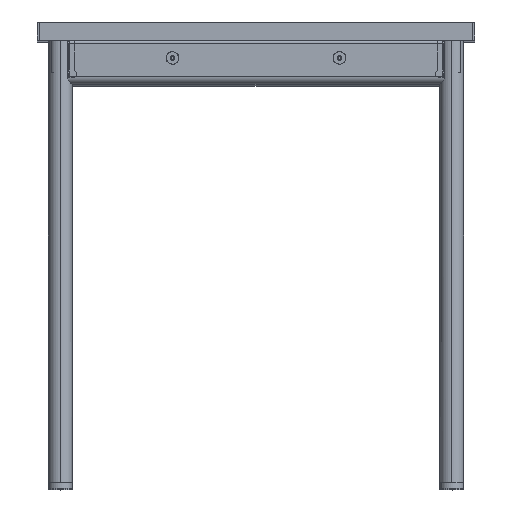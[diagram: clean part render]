
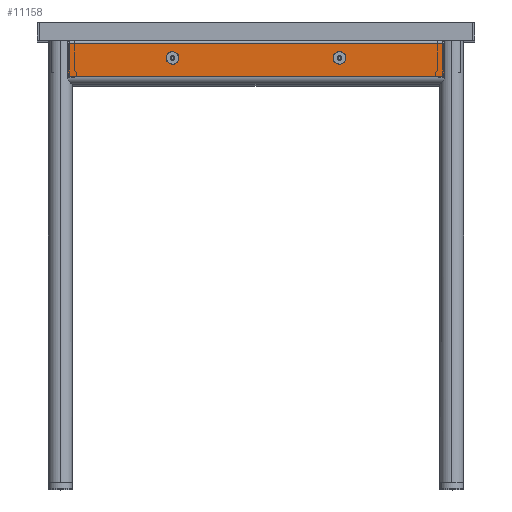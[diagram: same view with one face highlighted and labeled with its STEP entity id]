
A CAD part, top view. The second image highlights one B-rep face of the part: STEP entity #11158.
In plain terms, the highlighted planar face has unit normal (0, 0, 1).
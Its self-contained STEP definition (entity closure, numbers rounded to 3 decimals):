
#630 = ORIENTED_EDGE ( 'NONE', *, *, #5628, .F. ) ;
#667 = EDGE_CURVE ( 'NONE', #4824, #6357, #9003, .T. ) ;
#724 = FACE_BOUND ( 'NONE', #6163, .T. ) ;
#756 = DIRECTION ( 'NONE',  ( 0., 0., 1. ) ) ;
#1448 = ORIENTED_EDGE ( 'NONE', *, *, #24031, .T. ) ;
#1931 = AXIS2_PLACEMENT_3D ( 'NONE', #13366, #756, #13846 ) ;
#2185 = VECTOR ( 'NONE', #18512, 1000. ) ;
#2209 = EDGE_CURVE ( 'NONE', #11605, #23258, #17936, .T. ) ;
#2567 = FACE_OUTER_BOUND ( 'NONE', #11679, .T. ) ;
#2705 = CARTESIAN_POINT ( 'NONE',  ( 300.464, 31., 17.5 ) ) ;
#2831 = CARTESIAN_POINT ( 'NONE',  ( 133.5, 7.5, 17.5 ) ) ;
#3183 = CARTESIAN_POINT ( 'NONE',  ( 300.464, -21.5, 17.5 ) ) ;
#4036 = LINE ( 'NONE', #13676, #23152 ) ;
#4252 = LINE ( 'NONE', #7074, #21142 ) ;
#4333 = CARTESIAN_POINT ( 'NONE',  ( 133.5, 7.5, 17.5 ) ) ;
#4408 = CARTESIAN_POINT ( 'NONE',  ( 306., -21.5, 17.5 ) ) ;
#4510 = ORIENTED_EDGE ( 'NONE', *, *, #12478, .T. ) ;
#4540 = VERTEX_POINT ( 'NONE', #16830 ) ;
#4824 = VERTEX_POINT ( 'NONE', #6803 ) ;
#5628 = EDGE_CURVE ( 'NONE', #12092, #21351, #9122, .T. ) ;
#6111 = EDGE_CURVE ( 'NONE', #19021, #4540, #16009, .T. ) ;
#6163 = EDGE_LOOP ( 'NONE', ( #12208, #7078 ) ) ;
#6299 = DIRECTION ( 'NONE',  ( 1., 0., 0. ) ) ;
#6357 = VERTEX_POINT ( 'NONE', #7410 ) ;
#6803 = CARTESIAN_POINT ( 'NONE',  ( 136.5, 7.5, 17.5 ) ) ;
#7074 = CARTESIAN_POINT ( 'NONE',  ( 300.464, 31., 17.5 ) ) ;
#7078 = ORIENTED_EDGE ( 'NONE', *, *, #16708, .F. ) ;
#7410 = CARTESIAN_POINT ( 'NONE',  ( 130.5, 7.5, 17.5 ) ) ;
#8301 = EDGE_CURVE ( 'NONE', #23258, #11605, #19102, .T. ) ;
#8331 = PLANE ( 'NONE',  #11140 ) ;
#9003 = CIRCLE ( 'NONE', #15232, 3. ) ;
#9122 = LINE ( 'NONE', #14613, #2185 ) ;
#9756 = AXIS2_PLACEMENT_3D ( 'NONE', #18340, #20182, #16643 ) ;
#10379 = DIRECTION ( 'NONE',  ( 0., 1., 0. ) ) ;
#11140 = AXIS2_PLACEMENT_3D ( 'NONE', #4408, #11855, #15652 ) ;
#11158 = ADVANCED_FACE ( 'NONE', ( #17481, #724, #2567 ), #8331, .F. ) ;
#11605 = VERTEX_POINT ( 'NONE', #14139 ) ;
#11679 = EDGE_LOOP ( 'NONE', ( #14074, #1448, #630, #4510 ) ) ;
#11855 = DIRECTION ( 'NONE',  ( 0., 0., -1. ) ) ;
#12092 = VERTEX_POINT ( 'NONE', #3183 ) ;
#12208 = ORIENTED_EDGE ( 'NONE', *, *, #667, .F. ) ;
#12478 = EDGE_CURVE ( 'NONE', #12092, #19021, #4252, .T. ) ;
#13366 = CARTESIAN_POINT ( 'NONE',  ( -133.5, 7.5, 17.5 ) ) ;
#13505 = DIRECTION ( 'NONE',  ( 0., 0., 1. ) ) ;
#13676 = CARTESIAN_POINT ( 'NONE',  ( -300.464, -21.5, 17.5 ) ) ;
#13846 = DIRECTION ( 'NONE',  ( 1., 0., 0. ) ) ;
#13939 = DIRECTION ( 'NONE',  ( 0., 0., 1. ) ) ;
#14074 = ORIENTED_EDGE ( 'NONE', *, *, #6111, .T. ) ;
#14122 = CARTESIAN_POINT ( 'NONE',  ( -130.5, 7.5, 17.5 ) ) ;
#14139 = CARTESIAN_POINT ( 'NONE',  ( -136.5, 7.5, 17.5 ) ) ;
#14613 = CARTESIAN_POINT ( 'NONE',  ( 306., -21.5, 17.5 ) ) ;
#15232 = AXIS2_PLACEMENT_3D ( 'NONE', #4333, #13505, #6299 ) ;
#15611 = CIRCLE ( 'NONE', #17559, 3. ) ;
#15652 = DIRECTION ( 'NONE',  ( -1., 0., 0. ) ) ;
#16009 = LINE ( 'NONE', #21487, #22693 ) ;
#16643 = DIRECTION ( 'NONE',  ( 1., 0., 0. ) ) ;
#16708 = EDGE_CURVE ( 'NONE', #6357, #4824, #15611, .T. ) ;
#16830 = CARTESIAN_POINT ( 'NONE',  ( -300.464, 31., 17.5 ) ) ;
#17223 = DIRECTION ( 'NONE',  ( 0., -1., 0. ) ) ;
#17325 = ORIENTED_EDGE ( 'NONE', *, *, #2209, .F. ) ;
#17481 = FACE_BOUND ( 'NONE', #19550, .T. ) ;
#17559 = AXIS2_PLACEMENT_3D ( 'NONE', #2831, #13939, #17731 ) ;
#17731 = DIRECTION ( 'NONE',  ( 1., 0., 0. ) ) ;
#17936 = CIRCLE ( 'NONE', #1931, 3. ) ;
#18340 = CARTESIAN_POINT ( 'NONE',  ( -133.5, 7.5, 17.5 ) ) ;
#18512 = DIRECTION ( 'NONE',  ( -1., 0., 0. ) ) ;
#18603 = CARTESIAN_POINT ( 'NONE',  ( -300.464, -21.5, 17.5 ) ) ;
#19021 = VERTEX_POINT ( 'NONE', #2705 ) ;
#19102 = CIRCLE ( 'NONE', #9756, 3. ) ;
#19550 = EDGE_LOOP ( 'NONE', ( #23298, #17325 ) ) ;
#20182 = DIRECTION ( 'NONE',  ( 0., 0., 1. ) ) ;
#21142 = VECTOR ( 'NONE', #10379, 1000. ) ;
#21351 = VERTEX_POINT ( 'NONE', #18603 ) ;
#21487 = CARTESIAN_POINT ( 'NONE',  ( 306., 31., 17.5 ) ) ;
#21614 = DIRECTION ( 'NONE',  ( -1., 0., 0. ) ) ;
#22693 = VECTOR ( 'NONE', #21614, 1000. ) ;
#23152 = VECTOR ( 'NONE', #17223, 1000. ) ;
#23258 = VERTEX_POINT ( 'NONE', #14122 ) ;
#23298 = ORIENTED_EDGE ( 'NONE', *, *, #8301, .F. ) ;
#24031 = EDGE_CURVE ( 'NONE', #4540, #21351, #4036, .T. ) ;
